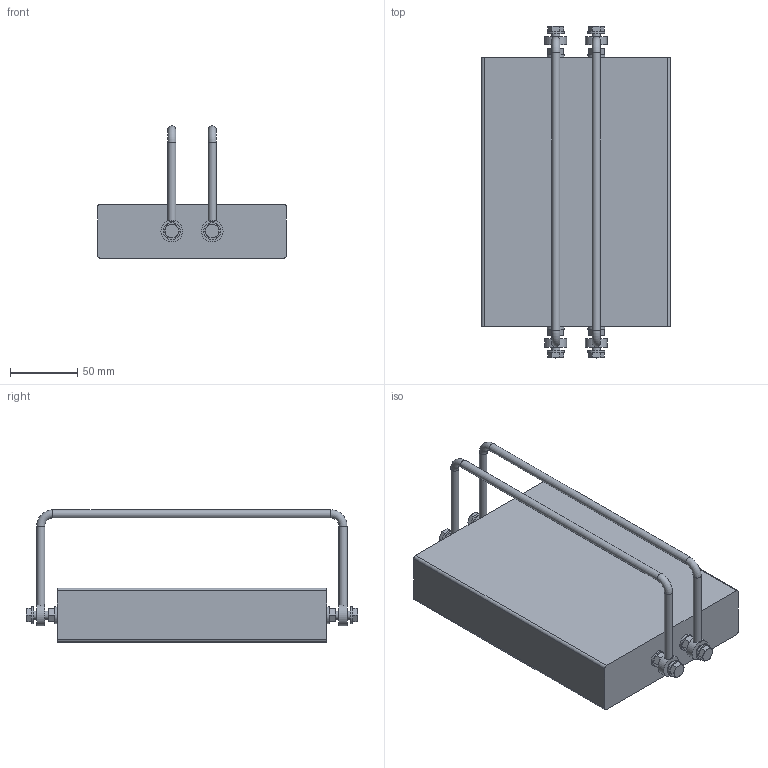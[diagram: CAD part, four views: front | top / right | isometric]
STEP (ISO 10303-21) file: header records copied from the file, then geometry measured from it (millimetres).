
FILE_DESCRIPTION(/* description */ (''),/* implementation_level */ '2;1');
FILE_NAME(/* name */ 'TiMG2.step',/* time_stamp */ '2023-06-30T10:34:55+09:00',/* author */ (''),/* organization */ (''),/* preprocessor_version */ 'ST-DEVELOPER v19.2',/* originating_system */ 'Autodesk Translation Framework v12.6.0.85',/* authorisation */ '');
FILE_SCHEMA (('AUTOMOTIVE_DESIGN { 1 0 10303 214 3 1 1 }'));
Length unit declared in the file: millimetre
Products named in the file (15): 17248-1_TiMG2; SLBNR6; HXN-ST-M6-25_214; SPWF6; SPWF6 v1(ミラー); SLBNR6 v1(ミラー); HXN-ST-M6-25_214 v1(ミラー); SPWF6 v1(ミラー) (1); SLBNR6 v1(ミラー) (1); HXN-ST-M6-25_214 v1(ミラー) (1); SPWF6 v1(ミラー)(ミラー); SLBNR6 v1(ミラー)(ミラー); HXN-ST-M6-25_214 v1(ミラー)(ミラー); Handle; Handle(ミラー)
Assembly tree (18 placements, depth 2):
  17248-1_TiMG2
    SPWF6  x2
    SLBNR6
    HXN-ST-M6-25_214
    SPWF6 v1(ミラー)  x2
    SLBNR6 v1(ミラー)
    HXN-ST-M6-25_214 v1(ミラー)
    SPWF6 v1(ミラー) (1)  x2
    SLBNR6 v1(ミラー) (1)
    HXN-ST-M6-25_214 v1(ミラー) (1)
    SPWF6 v1(ミラー)(ミラー)  x2
    SLBNR6 v1(ミラー)(ミラー)
    HXN-ST-M6-25_214 v1(ミラー)(ミラー)
    Handle
    Handle(ミラー)
Bounding box: 140 x 246 x 98 mm (x, y, z)
Volume: 1138230.5 mm3; surface area: 113132.7 mm2
Topology: 23 solids, 23 shells, 234 faces, 496 edges, 312 vertices
Faces by surface type: plane 102, cylinder 68, cone 60, torus 4
Full cylindrical faces by diameter (mm): 4.917 x4, 6 x12, 6.4 x8, 8 x4, 12.5 x8, 16 x4
Entity records: 6410 total; most frequent: CARTESIAN_POINT 1211, DIRECTION 1074, ORIENTED_EDGE 944, EDGE_CURVE 472, AXIS2_PLACEMENT_3D 447, VERTEX_POINT 296, EDGE_LOOP 250, FACE_OUTER_BOUND 218
